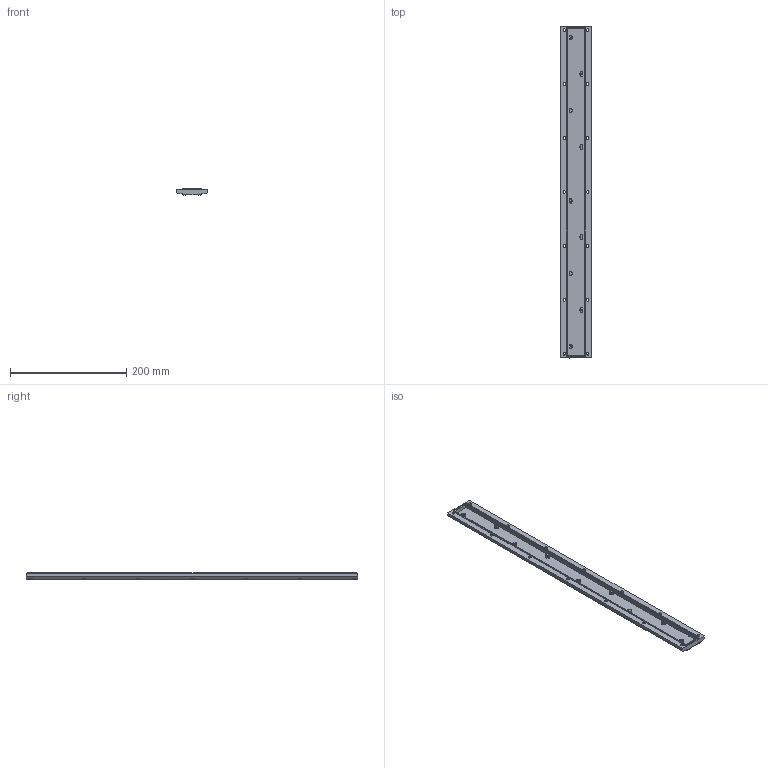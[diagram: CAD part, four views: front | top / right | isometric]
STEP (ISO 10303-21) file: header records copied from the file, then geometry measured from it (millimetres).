
FILE_DESCRIPTION(('Creo Elements/Direct Modeling STEP Export'),'2;1');
FILE_NAME('k9_mm_96700.stp','2021-07-02T15:17:46',(''),(''),'Creo Elements/Direct Modeling STEP processor for AP214 (Solid Model)','Creo Elements/Direct Modeling 20.1B 02-Apr-2019 (C) Parametric Technology GmbH','');
FILE_SCHEMA(('AUTOMOTIVE_DESIGN { 1 0 10303 214 1 1 1 1 }'));
Length unit declared in the file: millimetre
Products named in the file (1): 96700
Bounding box: 53 x 570 x 10.42 mm (x, y, z)
Volume: 149387.4 mm3; surface area: 84086.1 mm2
Topology: 1 solids, 1 shells, 463 faces, 2419 edges, 1975 vertices
Faces by surface type: plane 183, cylinder 172, extrusion 100, torus 8
Entity records: 30983 total; most frequent: CARTESIAN_POINT 11624, ORIENTED_EDGE 4838, DIRECTION 2749, EDGE_CURVE 2419, VERTEX_POINT 1975, VECTOR 1361, LINE 1261, AXIS2_PLACEMENT_3D 694
